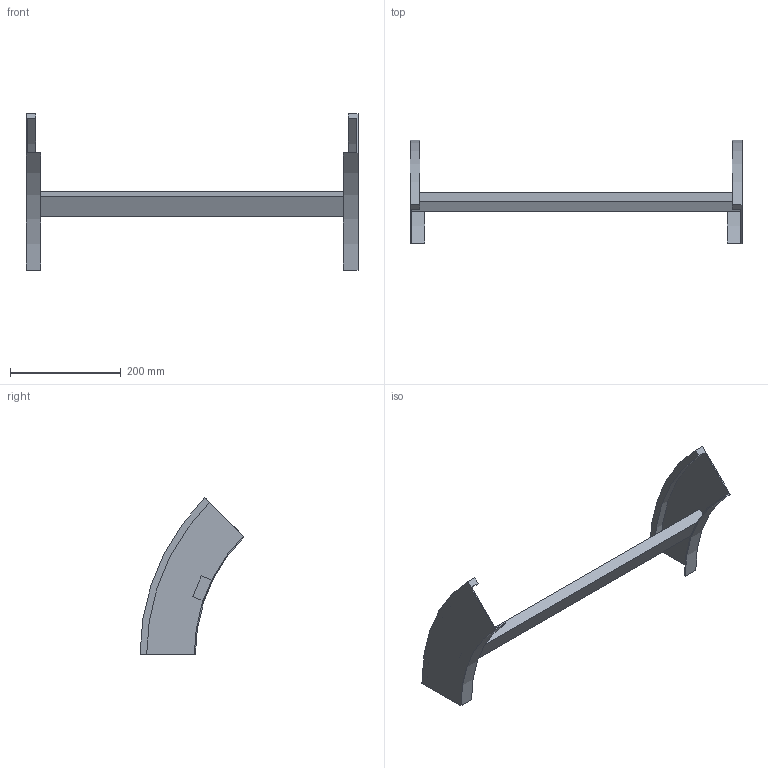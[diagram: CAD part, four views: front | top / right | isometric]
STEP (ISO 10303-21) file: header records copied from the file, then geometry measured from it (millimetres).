
FILE_DESCRIPTION (( 'STEP AP214' ), '1' );
FILE_NAME ('B2_34B3D600.step', '2025-02-21T14:52:16', ( '' ), ( '' ), 'SwSTEP 2.0', 'SolidWorks 2023', '' );
FILE_SCHEMA (( 'AUTOMOTIVE_DESIGN' ));
Length unit declared in the file: millimetre
Products named in the file (3): TRAVERSINO_600; B2_34B3D600; B2_LONGH.DISCESA_45°_H100_R300
Assembly tree (3 placements, depth 2):
  B2_34B3D600
    B2_LONGH.DISCESA_45°_H100_R300  x2
    TRAVERSINO_600
Bounding box: 600 x 187.87 x 282.84 mm (x, y, z)
Volume: 735183.8 mm3; surface area: 231103.9 mm2
Topology: 3 solids, 3 shells, 26 faces, 60 edges, 40 vertices
Faces by surface type: plane 18, cylinder 8
Entity records: 544 total; most frequent: DIRECTION 88, CARTESIAN_POINT 82, ORIENTED_EDGE 72, EDGE_CURVE 36, AXIS2_PLACEMENT_3D 30, LINE 28, VECTOR 28, VERTEX_POINT 24
